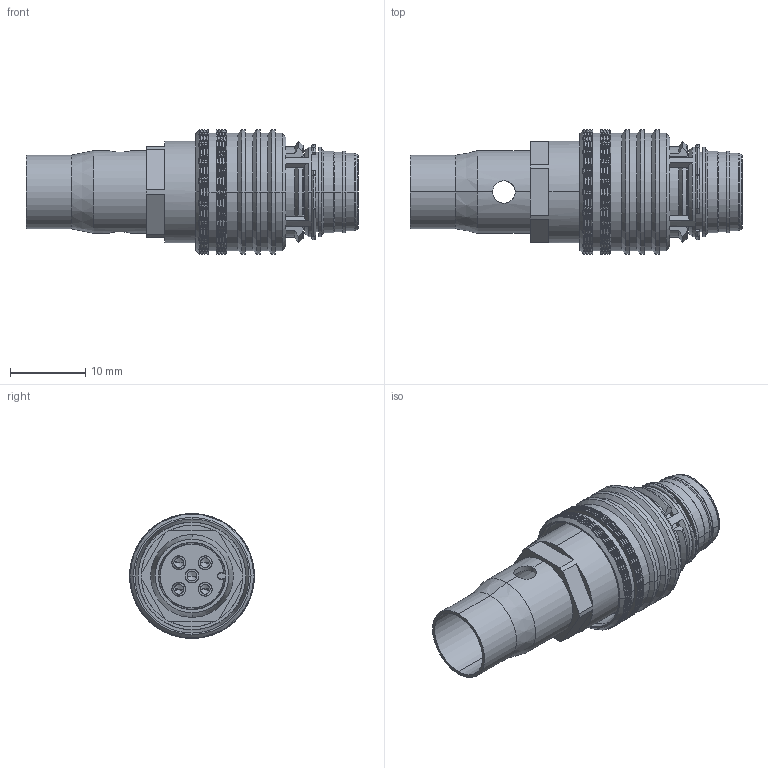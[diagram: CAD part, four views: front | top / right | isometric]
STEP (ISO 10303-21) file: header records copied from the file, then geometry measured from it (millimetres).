
FILE_DESCRIPTION((''),'2;1');
FILE_NAME('216D-05MO1_C_1_ASM','2026-04-27T',('fros.liao'),(''),'CREO PARAMETRIC BY PTC INC, 2018360','CREO PARAMETRIC BY PTC INC, 2018360','');
FILE_SCHEMA(('CONFIG_CONTROL_DESIGN'));
Products named in the file (10): BASE; HSG; PIN; LINK; LOCK; OUTSHELL; LOCK1; GNDSHEL; ORING1; 216D-05MO1_C_1_ASM
Assembly tree (13 placements, depth 2):
  216D-05MO1_C_1_ASM
    BASE
    HSG
    PIN  x5
    LINK
    LOCK
    OUTSHELL
    LOCK1
    GNDSHEL
    ORING1
Bounding box: 44.2 x 16.6 x 16.6 mm (x, y, z)
Volume: 2811.9 mm3; surface area: 7504.6 mm2
Topology: 13 solids, 13 shells, 1813 faces, 4137 edges, 2364 vertices
Faces by surface type: bspline 1020, cylinder 498, plane 132, cone 103, torus 50, sphere 10
Entity records: 74679 total; most frequent: CARTESIAN_POINT 44345, ORIENTED_EDGE 7738, EDGE_CURVE 3869, DIRECTION 3434, B_SPLINE_CURVE_WITH_KNOTS 2448, VERTEX_POINT 2212, EDGE_LOOP 1743, FACE_OUTER_BOUND 1697
